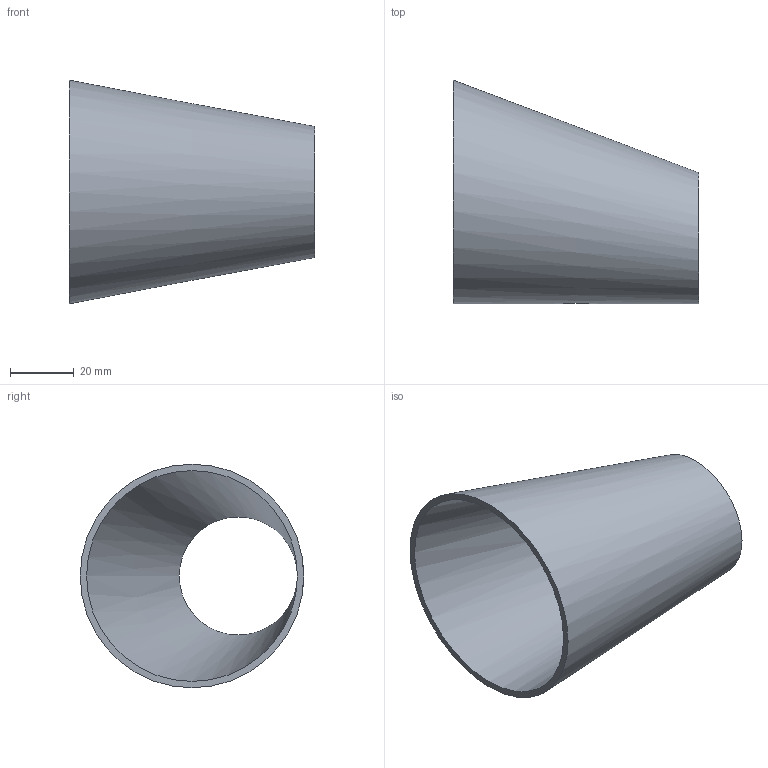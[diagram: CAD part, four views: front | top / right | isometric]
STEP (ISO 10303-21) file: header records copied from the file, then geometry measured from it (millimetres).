
FILE_DESCRIPTION(('FreeCAD Model'),'2;1');
FILE_NAME( '/home/martin/Documents/proyect/accesorios/stp/red-exc_DN65-40.step', '2017-12-31T13:03:57',('Author'),(''), 'Open CASCADE STEP processor 6.8','FreeCAD','Unknown');
FILE_SCHEMA(('AUTOMOTIVE_DESIGN_CC2 { 1 2 10303 214 -1 1 5 4 }'));
Length unit declared in the file: millimetre
Products named in the file (1): red-exc_DN65-40
Bounding box: 77 x 70 x 70 mm (x, y, z)
Volume: 25883.6 mm3; surface area: 27227.4 mm2
Topology: 1 solids, 1 shells, 4 faces, 6 edges, 4 vertices
Faces by surface type: bspline 2, plane 2
Entity records: 247 total; most frequent: CARTESIAN_POINT 87, DIRECTION 26, ORIENTED_EDGE 12, PCURVE 12, DEFINITIONAL_REPRESENTATION 12, CIRCLE 8, LINE 8, VECTOR 8
